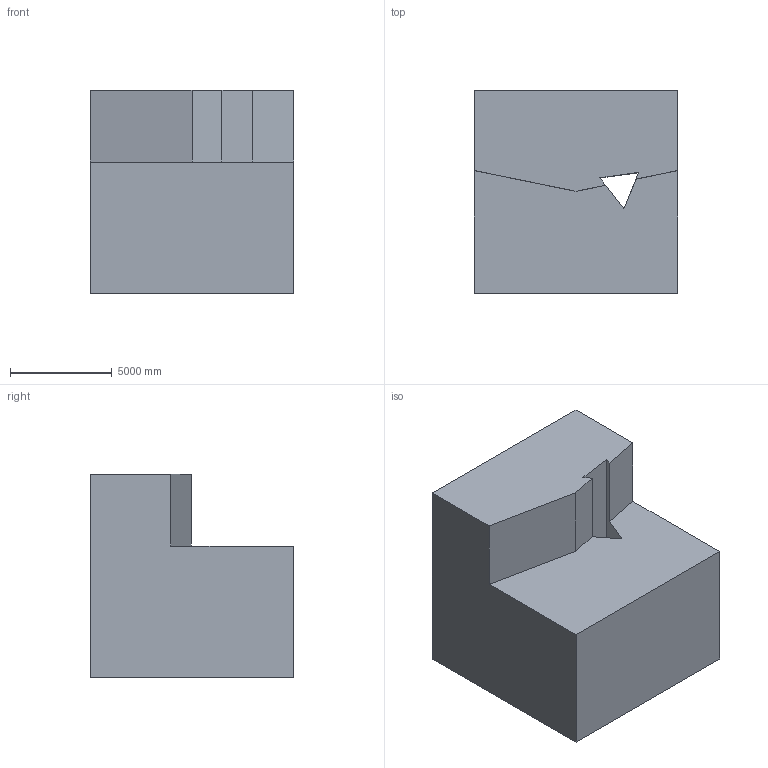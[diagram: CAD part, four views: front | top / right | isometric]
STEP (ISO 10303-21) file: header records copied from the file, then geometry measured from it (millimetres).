
FILE_DESCRIPTION (( 'STEP AP203' ), '1' );
FILE_NAME ('95.STEP', '2022-07-28T13:36:11', ( 'user' ), ( '' ), 'SwSTEP 2.0', 'SolidWorks 2021', '' );
FILE_SCHEMA (( 'CONFIG_CONTROL_DESIGN' ));
Length unit declared in the file: centimetre
Products named in the file (1): 95
Bounding box: 10000 x 10000 x 10000 mm (x, y, z)
Volume: 792156262447.1 mm3; surface area: 596666623.1 mm2
Topology: 1 solids, 1 shells, 13 faces, 36 edges, 24 vertices
Faces by surface type: plane 13
Entity records: 491 total; most frequent: CARTESIAN_POINT 74, ORIENTED_EDGE 72, DIRECTION 64, EDGE_CURVE 36, VECTOR 36, LINE 36, VERTEX_POINT 24, AXIS2_PLACEMENT_3D 14
